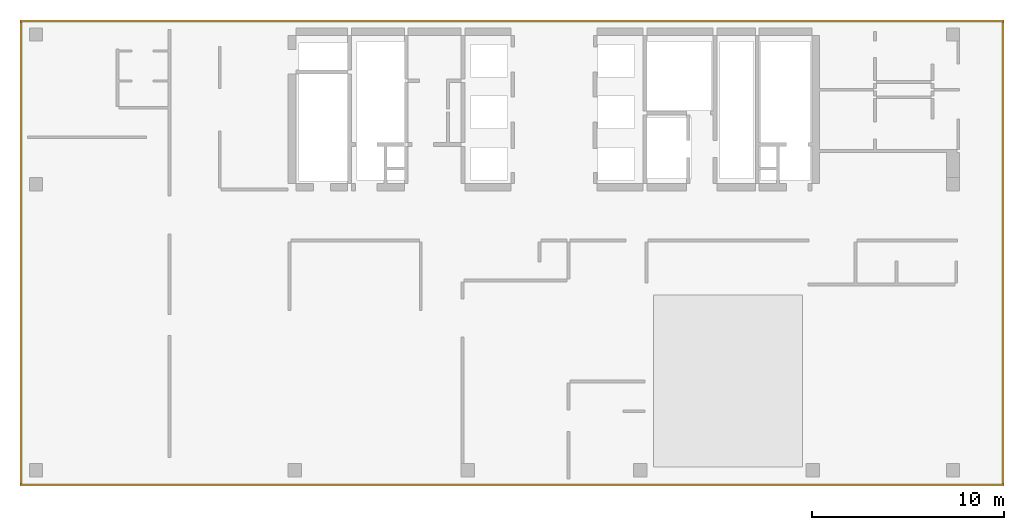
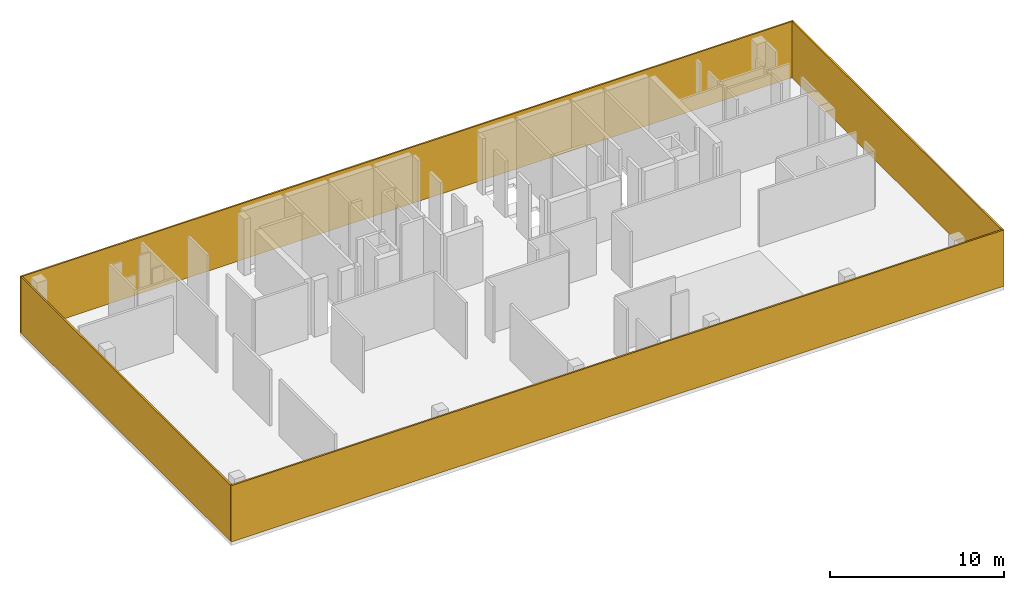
# One storey, part 4 of 5: 4 curtain walls.
"""IFC4 building model written with IfcOpenShell, lengths in millimetres."""

from ifc_helpers import new_model, si_unit, frame, origin, place, context, project, spatial, triangles, element, save


model = new_model("IFC4")

# Units and contexts
model_context = context("Model", 3, precision=0.001, world=origin())
ifc_project = project(units=[si_unit("LENGTHUNIT", "METRE", prefix="MILLI"), si_unit("AREAUNIT", "SQUARE_METRE"), si_unit("VOLUMEUNIT", "CUBIC_METRE")], contexts=[model_context])

# Site, building, storey
site_placement = place(None, origin())
site = spatial("IfcSite", under=ifc_project, at=site_placement, Name="Site", CompositionType="ELEMENT")
building_placement = place(site_placement, origin())
building = spatial("IfcBuilding", under=site, at=building_placement, Name="INNOCEAN", CompositionType="ELEMENT")
storey_placement = place(building_placement, frame((0.0, 0.0, 76400.0)))
storey = spatial("IfcBuildingStorey", under=building, at=storey_placement, Name="F18", CompositionType="ELEMENT", Elevation=76400.0)

# Curtain walls
curtain_wall_1_placement = place(storey_placement, origin())
element("IfcCurtainWall", 1, at=curtain_wall_1_placement, inside=storey, Name="F18_Facade_F18_001", context=model_context, shape_type="Tessellation", body=[
    triangles([(50420.3187250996, 25825.974025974, 0.0), (-846.215139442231, 25825.974025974, 0.0), (-846.215139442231, 25825.974025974, 3950.0), (50420.3187250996, 25825.974025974, 3950.0), (50420.3187250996, 25720.1298701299, 0.0), (50420.3187250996, 25720.1298701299, 3950.0), (-846.215139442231, 25720.1298701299, 0.0), (-846.215139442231, 25720.1298701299, 3950.0)], [[1, 2, 3], [1, 3, 4], [5, 1, 4], [5, 4, 6], [7, 5, 6], [7, 6, 8], [2, 7, 8], [2, 8, 3], [2, 1, 5], [2, 5, 7], [4, 3, 6], [6, 3, 8]], closed=True),
])
curtain_wall_2_placement = place(storey_placement, origin())
element("IfcCurtainWall", 2, at=curtain_wall_2_placement, inside=storey, Name="F18_Facade_F18_002", context=model_context, shape_type="Tessellation", body=[
    triangles([(50420.3187250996, 1658.22510822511, 0.0), (-846.215139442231, 1658.22510822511, 0.0), (-846.215139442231, 1658.22510822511, 3950.0), (50420.3187250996, 1658.22510822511, 3950.0), (50420.3187250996, 1552.38095238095, 0.0), (50420.3187250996, 1552.38095238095, 3950.0), (-846.215139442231, 1552.38095238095, 0.0), (-846.215139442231, 1552.38095238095, 3950.0)], [[1, 2, 3], [1, 3, 4], [5, 1, 4], [5, 4, 6], [7, 5, 6], [7, 6, 8], [2, 7, 8], [2, 8, 3], [2, 1, 5], [2, 5, 7], [4, 3, 6], [6, 3, 8]], closed=True),
])
curtain_wall_3_placement = place(storey_placement, origin())
element("IfcCurtainWall", 3, at=curtain_wall_3_placement, inside=storey, Name="F18_Facade_F18_003", context=model_context, shape_type="Tessellation", body=[
    triangles([(-740.438247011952, 25720.1298701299, 0.0), (-846.215139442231, 25720.1298701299, 0.0), (-846.215139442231, 25720.1298701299, 3950.0), (-740.438247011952, 25720.1298701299, 3950.0), (-740.438247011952, 1658.22510822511, 0.0), (-740.438247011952, 1658.22510822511, 3950.0), (-846.215139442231, 1658.22510822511, 0.0), (-846.215139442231, 1658.22510822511, 3950.0)], [[1, 2, 3], [1, 3, 4], [5, 1, 4], [5, 4, 6], [7, 5, 6], [7, 6, 8], [2, 7, 8], [2, 8, 3], [2, 1, 5], [2, 5, 7], [4, 3, 6], [6, 3, 8]], closed=True),
])
curtain_wall_4_placement = place(storey_placement, origin())
element("IfcCurtainWall", 4, at=curtain_wall_4_placement, inside=storey, Name="F18_Facade_F18_004", context=model_context, shape_type="Tessellation", body=[
    triangles([(50420.3187250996, 25720.1298701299, 0.0), (50314.5418326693, 25720.1298701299, 0.0), (50314.5418326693, 25720.1298701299, 3950.0), (50420.3187250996, 25720.1298701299, 3950.0), (50420.3187250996, 1658.22510822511, 0.0), (50420.3187250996, 1658.22510822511, 3950.0), (50314.5418326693, 1658.22510822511, 0.0), (50314.5418326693, 1658.22510822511, 3950.0)], [[1, 2, 3], [1, 3, 4], [5, 1, 4], [5, 4, 6], [7, 5, 6], [7, 6, 8], [2, 7, 8], [2, 8, 3], [2, 1, 5], [2, 5, 7], [4, 3, 6], [6, 3, 8]], closed=True),
])

save(model, "model.ifc")
